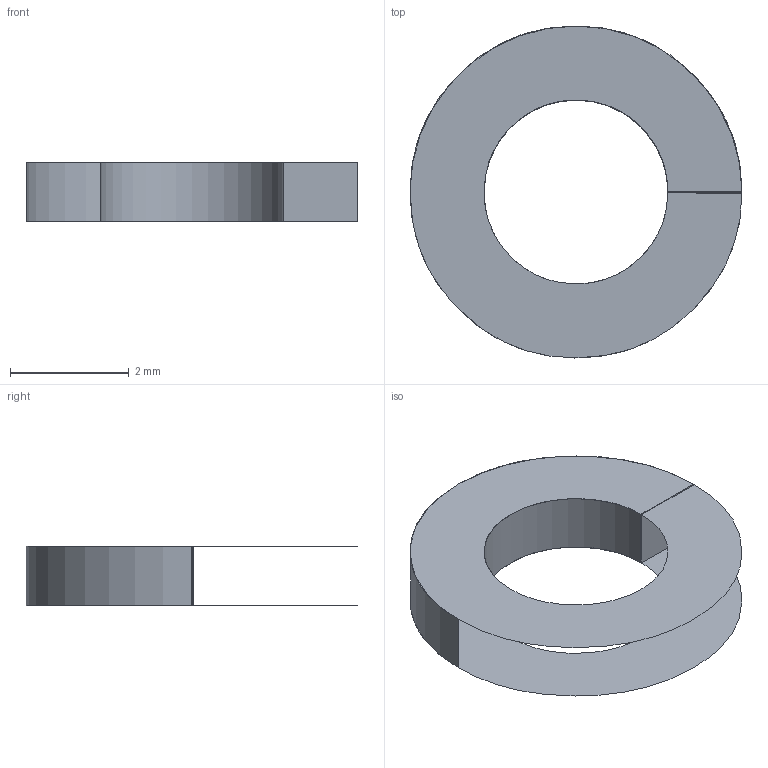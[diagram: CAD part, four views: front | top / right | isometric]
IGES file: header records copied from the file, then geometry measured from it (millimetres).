
Global section: file name: E:\UnigraphicsGraphicData\MISUMI_PRESS-PARTS\IGES\3d_cbw3_06362_r00.igs; native system: NX V5.0; preprocessor: UGS NX IGES V5.0; author: MISUMI; date: 20110105.160204; units: millimetre
Bounding box: 5.6 x 5.6 x 1 mm (x, y, z)
Surface area: 50.4 mm2 (no closed solid volume)
Topology: 0 solids, 0 shells, 6 faces, 52 edges, 52 vertices
Faces by surface type: bspline 6
